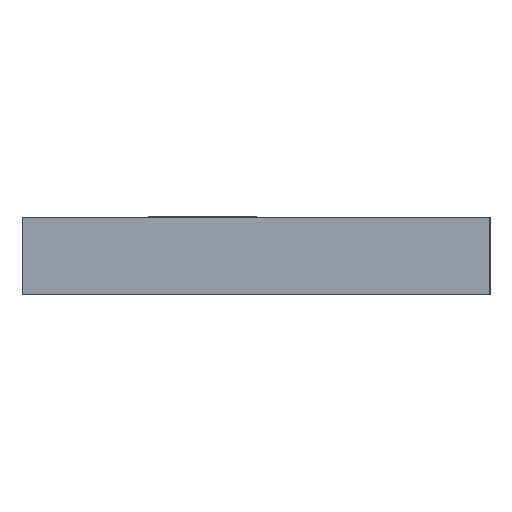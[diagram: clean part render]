
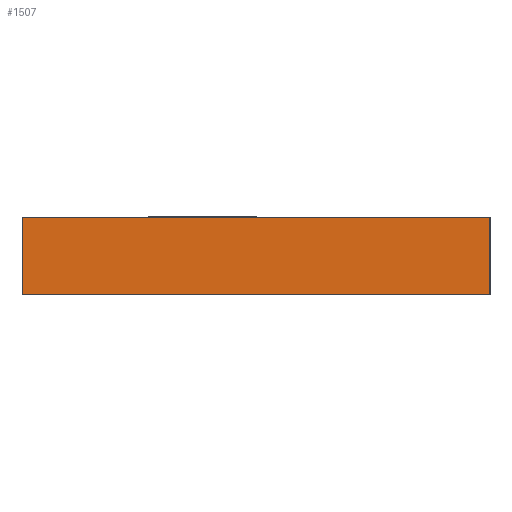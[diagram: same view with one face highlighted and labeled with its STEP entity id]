
A CAD part, left-side view. The second image highlights one B-rep face of the part: STEP entity #1507.
In plain terms, the highlighted planar face has unit normal (-1, 0, 0).
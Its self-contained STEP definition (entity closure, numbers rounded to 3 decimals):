
#261 = FACE_OUTER_BOUND ( 'NONE', #2005, .T. ) ;
#537 = CARTESIAN_POINT ( 'NONE',  ( -30., -30., 10. ) ) ;
#553 = DIRECTION ( 'NONE',  ( 0., 0., -1. ) ) ;
#572 = DIRECTION ( 'NONE',  ( 0., 0., -1. ) ) ;
#578 = CARTESIAN_POINT ( 'NONE',  ( -30., 30., 10. ) ) ;
#1236 = LINE ( 'NONE', #578, #1243 ) ;
#1243 = VECTOR ( 'NONE', #572, 1000. ) ;
#1261 = LINE ( 'NONE', #537, #1266 ) ;
#1266 = VECTOR ( 'NONE', #553, 1000. ) ;
#1314 = VECTOR ( 'NONE', #3607, 1000. ) ;
#1315 = LINE ( 'NONE', #3588, #1314 ) ;
#1338 = LINE ( 'NONE', #3049, #1341 ) ;
#1341 = VECTOR ( 'NONE', #3044, 1000. ) ;
#1507 = ADVANCED_FACE ( 'NONE', ( #261 ), #2246, .F. ) ;
#1685 = VERTEX_POINT ( 'NONE', #2591 ) ;
#1693 = VERTEX_POINT ( 'NONE', #2651 ) ;
#1704 = VERTEX_POINT ( 'NONE', #2664 ) ;
#1719 = VERTEX_POINT ( 'NONE', #2661 ) ;
#1856 = ORIENTED_EDGE ( 'NONE', *, *, #3488, .T. ) ;
#1898 = ORIENTED_EDGE ( 'NONE', *, *, #3468, .F. ) ;
#1929 = ORIENTED_EDGE ( 'NONE', *, *, #3556, .T. ) ;
#1959 = ORIENTED_EDGE ( 'NONE', *, *, #3417, .F. ) ;
#2005 = EDGE_LOOP ( 'NONE', ( #1929, #1898, #1959, #1856 ) ) ;
#2246 = PLANE ( 'NONE',  #3342 ) ;
#2247 = CARTESIAN_POINT ( 'NONE',  ( -30., 30., 10. ) ) ;
#2248 = DIRECTION ( 'NONE',  ( 1., 0., 0. ) ) ;
#2273 = DIRECTION ( 'NONE',  ( 0., 1., 0. ) ) ;
#2591 = CARTESIAN_POINT ( 'NONE',  ( -30., -30., 0. ) ) ;
#2651 = CARTESIAN_POINT ( 'NONE',  ( -30., -30., 10. ) ) ;
#2661 = CARTESIAN_POINT ( 'NONE',  ( -30., 30., 0. ) ) ;
#2664 = CARTESIAN_POINT ( 'NONE',  ( -30., 30., 10. ) ) ;
#3044 = DIRECTION ( 'NONE',  ( 0., -1., 0. ) ) ;
#3049 = CARTESIAN_POINT ( 'NONE',  ( -30., 30., 10. ) ) ;
#3342 = AXIS2_PLACEMENT_3D ( 'NONE', #2247, #2248, #2273 ) ;
#3417 = EDGE_CURVE ( 'NONE', #1704, #1693, #1338, .T. ) ;
#3468 = EDGE_CURVE ( 'NONE', #1693, #1685, #1261, .T. ) ;
#3488 = EDGE_CURVE ( 'NONE', #1704, #1719, #1236, .T. ) ;
#3556 = EDGE_CURVE ( 'NONE', #1719, #1685, #1315, .T. ) ;
#3588 = CARTESIAN_POINT ( 'NONE',  ( -30., 30., 0. ) ) ;
#3607 = DIRECTION ( 'NONE',  ( 0., -1., 0. ) ) ;
